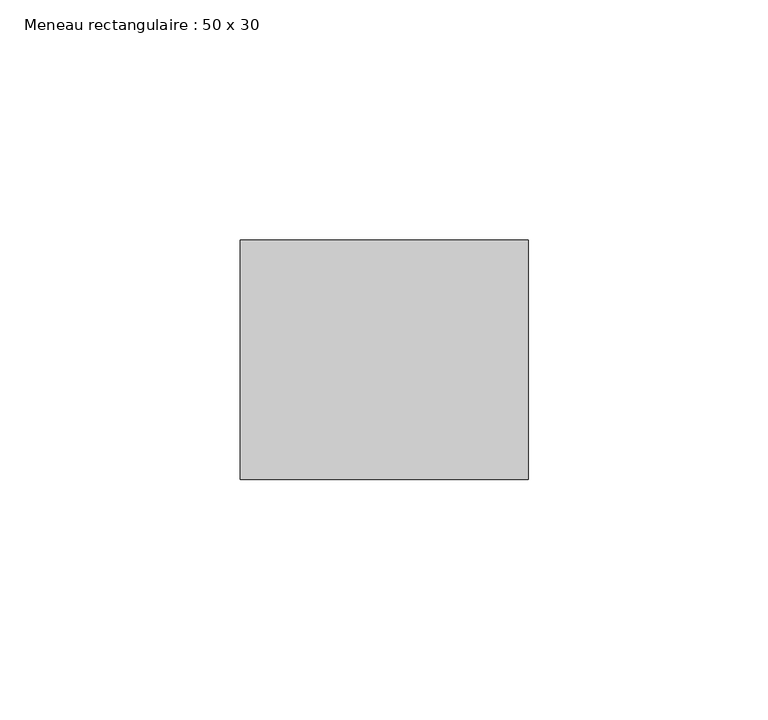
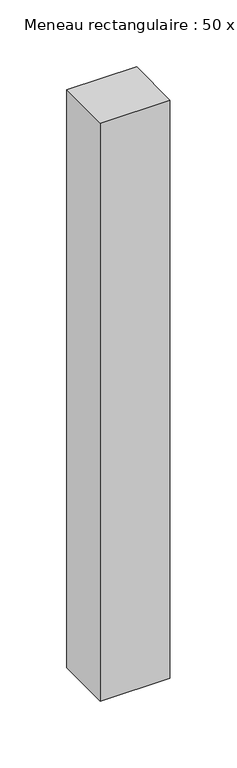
"""IFC4 building model written with IfcOpenShell, lengths in millimetres: member geometry, Meneau rectangulaire : 50 x 30."""

from ifc_helpers import new_model, si_unit, frame, origin, place, context, project, spatial, polyline, outline, extrude, source, transform, mapped, element, save


def meneau_rectangulaire_50_x_30_d116a458(model_context):
    return source(origin(), model_context, "Body", "SweptSolid", [
        extrude(outline(polyline([(0.0, 0.0), (0.0, -50.0), (-60.0, -50.0), (-60.0, 0.0), (0.0, 0.0)])), frame((0.0, 0.0, -526.8939429), z_axis=(0.0, 0.0, 1.0), x_axis=(1.0, 0.0, 0.0)), (0.0, 0.0, 1.0), 526.8939429),
    ])


if __name__ == "__main__":
    model = new_model("IFC4")
    model_context = context("Model", 3, world=origin())
    ifc_project = project(units=[si_unit("LENGTHUNIT", "METRE", prefix="MILLI")], contexts=[model_context])
    site = spatial("IfcSite", under=ifc_project)
    building = spatial("IfcBuilding", under=site)
    placement = place(None, origin())
    meneau_rectangulaire_50_x_30_shape = meneau_rectangulaire_50_x_30_d116a458(model_context)
    element("IfcMember", 1, ObjectType="Meneau rectangulaire : 50 x 30", at=placement, inside=building, context=model_context, shape_type="MappedRepresentation", body=[
        mapped(meneau_rectangulaire_50_x_30_shape, transform((0.0, 0.0, 0.0), x_axis=(1.0, 0.0, 0.0), y_axis=(0.0, 1.0, 0.0), z_axis=(0.0, 0.0, 1.0))),
    ])
    save(model, "model.ifc")
